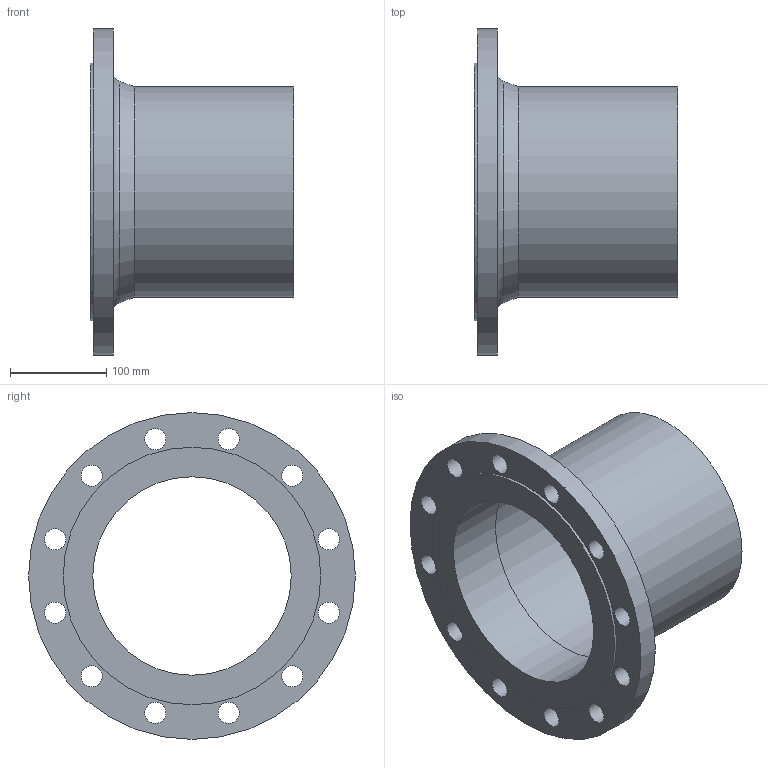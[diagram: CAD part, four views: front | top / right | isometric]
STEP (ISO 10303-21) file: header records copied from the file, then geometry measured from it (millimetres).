
FILE_DESCRIPTION(/* description */ (''),/* implementation_level */ '2;1');
FILE_NAME(/* name */ 'C:\Users\LK_9K\Desktop\STRAUB FLANSCHADAPTER DN200.stp',/* time_stamp */ '2021-04-12T09:24:12+02:00',/* author */ ('LK_9K'),/* organization */ (''),/* preprocessor_version */ 'ST-DEVELOPER v18.1',/* originating_system */ 'Autodesk Inventor 2020',/* authorisation */ '');
FILE_SCHEMA (('AUTOMOTIVE_DESIGN { 1 0 10303 214 3 1 1 }'));
Length unit declared in the file: millimetre
Products named in the file (1): Bauteil1
Bounding box: 212 x 340 x 340 mm (x, y, z)
Volume: 1710177 mm3; surface area: 412467.2 mm2
Topology: 1 solids, 1 shells, 24 faces, 78 edges, 59 vertices
Faces by surface type: cylinder 17, plane 5, torus 1, cone 1
Full cylindrical faces by diameter (mm): 22 x12, 206.5 x1, 213.1 x1, 219.1 x1, 268 x1, 340 x1
Entity records: 1023 total; most frequent: DIRECTION 188, CARTESIAN_POINT 162, ORIENTED_EDGE 156, AXIS2_PLACEMENT_3D 85, EDGE_CURVE 78, CIRCLE 60, VERTEX_POINT 59, EDGE_LOOP 53
